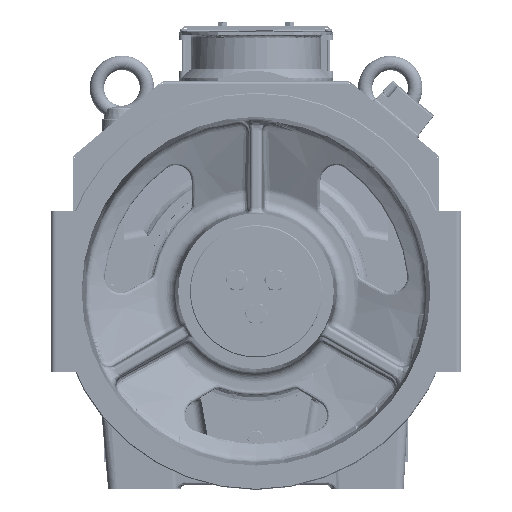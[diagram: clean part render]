
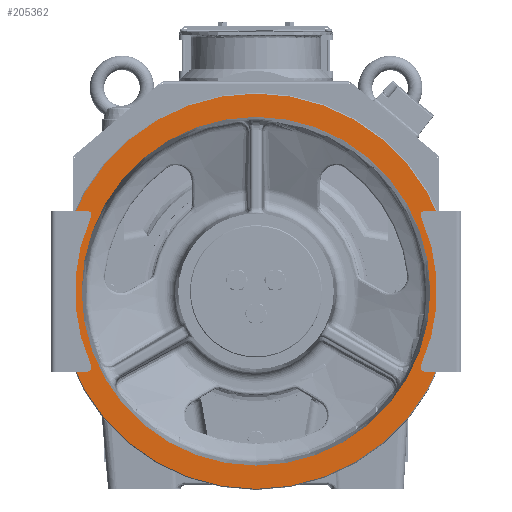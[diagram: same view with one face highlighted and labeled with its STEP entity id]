
A CAD part, top view. The second image highlights one B-rep face of the part: STEP entity #205362.
In plain terms, the highlighted planar face has unit normal (0, 0, 1) as drawn and (0, 1, 0) by its records, which use the part's own axes.
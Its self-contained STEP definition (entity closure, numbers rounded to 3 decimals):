
#190543=CARTESIAN_POINT('',(0.,86.,0.));
#190544=DIRECTION('',(0.,-1.,0.));
#190545=DIRECTION('',(0.,0.,-1.));
#190546=AXIS2_PLACEMENT_3D('',#190543,#190544,#190545);
#190548=CARTESIAN_POINT('',(0.,86.,0.));
#190549=DIRECTION('',(0.,-1.,0.));
#190550=DIRECTION('',(0.,0.,1.));
#190551=AXIS2_PLACEMENT_3D('',#190548,#190549,#190550);
#190553=CARTESIAN_POINT('',(0.,86.,0.));
#190554=DIRECTION('',(0.,1.,0.));
#190555=DIRECTION('',(0.,0.,1.));
#190556=AXIS2_PLACEMENT_3D('',#190553,#190554,#190555);
#190558=CARTESIAN_POINT('',(0.,86.,0.));
#190559=DIRECTION('',(0.,1.,0.));
#190560=DIRECTION('',(0.,0.,-1.));
#190561=AXIS2_PLACEMENT_3D('',#190558,#190559,#190560);
#203995=CARTESIAN_POINT('',(0.,86.,-195.));
#203996=CARTESIAN_POINT('',(0.,86.,195.));
#203997=VERTEX_POINT('',#203995);
#203998=VERTEX_POINT('',#203996);
#204021=CARTESIAN_POINT('',(0.,86.,-221.));
#204022=CARTESIAN_POINT('',(0.,86.,221.));
#204023=VERTEX_POINT('',#204021);
#204024=VERTEX_POINT('',#204022);
#205346=CARTESIAN_POINT('',(0.,86.,0.));
#205347=DIRECTION('',(0.,-1.,0.));
#205348=DIRECTION('',(0.,0.,1.));
#205349=AXIS2_PLACEMENT_3D('',#205346,#205347,#205348);
#205350=PLANE('',#205349);
#205352=ORIENTED_EDGE('',*,*,#205351,.T.);
#205354=ORIENTED_EDGE('',*,*,#205353,.T.);
#205355=EDGE_LOOP('',(#205352,#205354));
#205356=FACE_OUTER_BOUND('',#205355,.F.);
#205358=ORIENTED_EDGE('',*,*,#205357,.T.);
#205359=ORIENTED_EDGE('',*,*,#205311,.T.);
#205360=EDGE_LOOP('',(#205358,#205359));
#205361=FACE_BOUND('',#205360,.F.);
#205362=ADVANCED_FACE('',(#205356,#205361),#205350,.F.);
#190547=CIRCLE('',#190546,221.);
#190552=CIRCLE('',#190551,221.);
#190557=CIRCLE('',#190556,195.);
#190562=CIRCLE('',#190561,195.);
#205311=EDGE_CURVE('',#203997,#203998,#190562,.T.);
#205351=EDGE_CURVE('',#204023,#204024,#190547,.T.);
#205353=EDGE_CURVE('',#204024,#204023,#190552,.T.);
#205357=EDGE_CURVE('',#203998,#203997,#190557,.T.);
